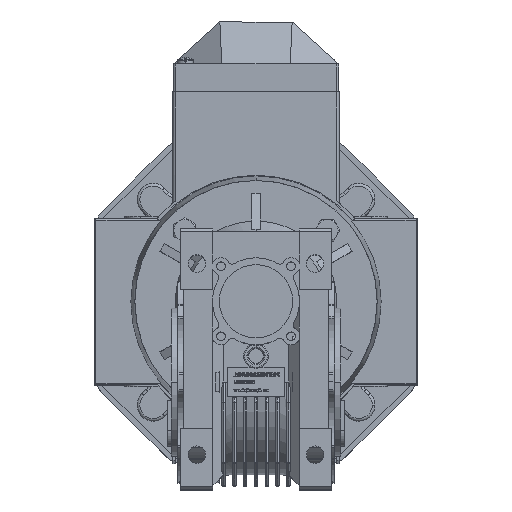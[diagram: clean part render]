
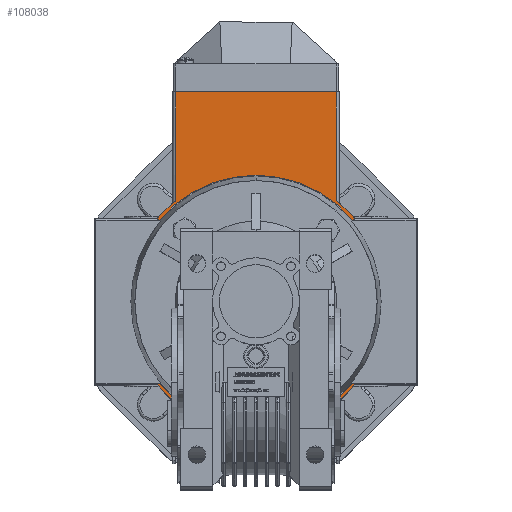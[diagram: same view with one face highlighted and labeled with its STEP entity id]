
A CAD part, top view. The second image highlights one B-rep face of the part: STEP entity #108038.
In plain terms, the highlighted planar face has unit normal (0, 0, 1).
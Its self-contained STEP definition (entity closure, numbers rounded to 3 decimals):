
#2333 = DIRECTION ( 'NONE',  ( 0., 0., 1. ) ) ;
#2702 = DIRECTION ( 'NONE',  ( 1., 0., 0. ) ) ;
#3257 = DIRECTION ( 'NONE',  ( 0., 0., -1. ) ) ;
#4535 = VERTEX_POINT ( 'NONE', #109053 ) ;
#5659 = VERTEX_POINT ( 'NONE', #70245 ) ;
#6194 = LINE ( 'NONE', #16932, #36860 ) ;
#7604 = ORIENTED_EDGE ( 'NONE', *, *, #35212, .T. ) ;
#8166 = CARTESIAN_POINT ( 'NONE',  ( -60., 30.854, 0. ) ) ;
#9170 = CARTESIAN_POINT ( 'NONE',  ( 0., 0., 0. ) ) ;
#10082 = AXIS2_PLACEMENT_3D ( 'NONE', #61271, #10152, #69839 ) ;
#10152 = DIRECTION ( 'NONE',  ( 0., 0., 1. ) ) ;
#10640 = CARTESIAN_POINT ( 'NONE',  ( 36.77, 30.854, 0. ) ) ;
#11616 = EDGE_CURVE ( 'NONE', #4535, #70054, #58516, .T. ) ;
#12937 = LINE ( 'NONE', #47236, #43672 ) ;
#13857 = VERTEX_POINT ( 'NONE', #60341 ) ;
#16077 = ORIENTED_EDGE ( 'NONE', *, *, #82603, .T. ) ;
#16837 = LINE ( 'NONE', #73655, #43457 ) ;
#16932 = CARTESIAN_POINT ( 'NONE',  ( 60., 30.854, 0. ) ) ;
#18094 = AXIS2_PLACEMENT_3D ( 'NONE', #54323, #3257, #44623 ) ;
#22282 = VERTEX_POINT ( 'NONE', #92069 ) ;
#22584 = DIRECTION ( 'NONE',  ( 0., 1., 0. ) ) ;
#24775 = DIRECTION ( 'NONE',  ( 0., 0., -1. ) ) ;
#26319 = CARTESIAN_POINT ( 'NONE',  ( -29.854, 0., 0. ) ) ;
#26644 = CARTESIAN_POINT ( 'NONE',  ( -36.77, 30.854, 0. ) ) ;
#26992 = CARTESIAN_POINT ( 'NONE',  ( 0., 0., 0. ) ) ;
#27313 = PLANE ( 'NONE',  #10082 ) ;
#28811 = AXIS2_PLACEMENT_3D ( 'NONE', #26992, #2333, #2702 ) ;
#32083 = AXIS2_PLACEMENT_3D ( 'NONE', #72517, #82256, #65049 ) ;
#33710 = CARTESIAN_POINT ( 'NONE',  ( 0., 0., 0. ) ) ;
#34879 = DIRECTION ( 'NONE',  ( 1., 0., 0. ) ) ;
#34966 = VECTOR ( 'NONE', #90650, 1000. ) ;
#35212 = EDGE_CURVE ( 'NONE', #5659, #22282, #57649, .T. ) ;
#35217 = FACE_BOUND ( 'NONE', #77425, .T. ) ;
#36860 = VECTOR ( 'NONE', #94635, 1000. ) ;
#37075 = LINE ( 'NONE', #26319, #81138 ) ;
#37856 = CARTESIAN_POINT ( 'NONE',  ( 36.77, 30.854, 0. ) ) ;
#40109 = EDGE_CURVE ( 'NONE', #63522, #85162, #16837, .T. ) ;
#40908 = CARTESIAN_POINT ( 'NONE',  ( 29.854, 0., 0. ) ) ;
#42235 = ORIENTED_EDGE ( 'NONE', *, *, #85116, .T. ) ;
#43457 = VECTOR ( 'NONE', #81896, 1000. ) ;
#43672 = VECTOR ( 'NONE', #88429, 1000. ) ;
#44623 = DIRECTION ( 'NONE',  ( 0., 1., 0. ) ) ;
#44714 = LINE ( 'NONE', #66215, #84870 ) ;
#47080 = ORIENTED_EDGE ( 'NONE', *, *, #106661, .F. ) ;
#47236 = CARTESIAN_POINT ( 'NONE',  ( -30.854, 78., 0. ) ) ;
#47800 = VECTOR ( 'NONE', #103023, 1000. ) ;
#47939 = ORIENTED_EDGE ( 'NONE', *, *, #70434, .T. ) ;
#48734 = EDGE_CURVE ( 'NONE', #70853, #93748, #75972, .T. ) ;
#49049 = CARTESIAN_POINT ( 'NONE',  ( -60., 30.854, 0. ) ) ;
#51585 = CARTESIAN_POINT ( 'NONE',  ( -36.77, -30.854, 0. ) ) ;
#52769 = ORIENTED_EDGE ( 'NONE', *, *, #68602, .T. ) ;
#52792 = ORIENTED_EDGE ( 'NONE', *, *, #53208, .F. ) ;
#53208 = EDGE_CURVE ( 'NONE', #69951, #22282, #12937, .T. ) ;
#53211 = CARTESIAN_POINT ( 'NONE',  ( -60., -30.854, 0. ) ) ;
#54323 = CARTESIAN_POINT ( 'NONE',  ( 0., 0., 0. ) ) ;
#54514 = EDGE_CURVE ( 'NONE', #93748, #77818, #44714, .T. ) ;
#54717 = CIRCLE ( 'NONE', #18094, 5.775 ) ;
#54929 = VERTEX_POINT ( 'NONE', #63491 ) ;
#55291 = CIRCLE ( 'NONE', #32083, 48. ) ;
#57287 = EDGE_CURVE ( 'NONE', #67885, #63522, #61879, .T. ) ;
#57649 = LINE ( 'NONE', #40908, #34966 ) ;
#58516 = LINE ( 'NONE', #10640, #47800 ) ;
#60341 = CARTESIAN_POINT ( 'NONE',  ( 0., -5.775, 0. ) ) ;
#61271 = CARTESIAN_POINT ( 'NONE',  ( 0., 0., 0. ) ) ;
#61879 = LINE ( 'NONE', #49049, #96668 ) ;
#63491 = CARTESIAN_POINT ( 'NONE',  ( -29.854, 37.587, 0. ) ) ;
#63522 = VERTEX_POINT ( 'NONE', #8166 ) ;
#64452 = ORIENTED_EDGE ( 'NONE', *, *, #57287, .F. ) ;
#65049 = DIRECTION ( 'NONE',  ( 1., 0., 0. ) ) ;
#65153 = CARTESIAN_POINT ( 'NONE',  ( -36.77, -30.854, 0. ) ) ;
#66215 = CARTESIAN_POINT ( 'NONE',  ( 36.77, -30.854, 0. ) ) ;
#67885 = VERTEX_POINT ( 'NONE', #53211 ) ;
#68602 = EDGE_CURVE ( 'NONE', #106377, #13857, #54717, .T. ) ;
#68779 = DIRECTION ( 'NONE',  ( 0., 1., 0. ) ) ;
#69229 = DIRECTION ( 'NONE',  ( 0., 0., 1. ) ) ;
#69839 = DIRECTION ( 'NONE',  ( 1., 0., 0. ) ) ;
#69951 = VERTEX_POINT ( 'NONE', #71099 ) ;
#70054 = VERTEX_POINT ( 'NONE', #37856 ) ;
#70245 = CARTESIAN_POINT ( 'NONE',  ( 29.854, 37.587, 0. ) ) ;
#70434 = EDGE_CURVE ( 'NONE', #69951, #54929, #37075, .T. ) ;
#70853 = VERTEX_POINT ( 'NONE', #65153 ) ;
#71099 = CARTESIAN_POINT ( 'NONE',  ( -29.854, 78., 0. ) ) ;
#72517 = CARTESIAN_POINT ( 'NONE',  ( 0., 0., 0. ) ) ;
#73655 = CARTESIAN_POINT ( 'NONE',  ( -36.77, 30.854, 0. ) ) ;
#74068 = DIRECTION ( 'NONE',  ( 1., 0., 0. ) ) ;
#75218 = CARTESIAN_POINT ( 'NONE',  ( 0., 5.775, 0. ) ) ;
#75818 = ORIENTED_EDGE ( 'NONE', *, *, #89306, .T. ) ;
#75972 = CIRCLE ( 'NONE', #80343, 48. ) ;
#76298 = ORIENTED_EDGE ( 'NONE', *, *, #11616, .T. ) ;
#77425 = EDGE_LOOP ( 'NONE', ( #52769, #42235 ) ) ;
#77523 = CIRCLE ( 'NONE', #101421, 5.775 ) ;
#77818 = VERTEX_POINT ( 'NONE', #91305 ) ;
#80135 = EDGE_LOOP ( 'NONE', ( #52792, #47939, #75818, #89763, #64452, #47080, #98867, #109647, #109986, #76298, #16077, #7604 ) ) ;
#80343 = AXIS2_PLACEMENT_3D ( 'NONE', #9170, #69229, #34879 ) ;
#81138 = VECTOR ( 'NONE', #86005, 1000. ) ;
#81896 = DIRECTION ( 'NONE',  ( 1., 0., 0. ) ) ;
#82251 = VECTOR ( 'NONE', #85921, 1000. ) ;
#82256 = DIRECTION ( 'NONE',  ( 0., 0., 1. ) ) ;
#82603 = EDGE_CURVE ( 'NONE', #70054, #5659, #110038, .T. ) ;
#84870 = VECTOR ( 'NONE', #74068, 1000. ) ;
#85116 = EDGE_CURVE ( 'NONE', #13857, #106377, #77523, .T. ) ;
#85162 = VERTEX_POINT ( 'NONE', #26644 ) ;
#85921 = DIRECTION ( 'NONE',  ( -1., 0., 0. ) ) ;
#86005 = DIRECTION ( 'NONE',  ( 0., -1., 0. ) ) ;
#86009 = FACE_OUTER_BOUND ( 'NONE', #80135, .T. ) ;
#88429 = DIRECTION ( 'NONE',  ( 1., 0., 0. ) ) ;
#88863 = LINE ( 'NONE', #51585, #82251 ) ;
#89306 = EDGE_CURVE ( 'NONE', #54929, #85162, #55291, .T. ) ;
#89763 = ORIENTED_EDGE ( 'NONE', *, *, #40109, .F. ) ;
#90359 = EDGE_CURVE ( 'NONE', #77818, #4535, #6194, .T. ) ;
#90650 = DIRECTION ( 'NONE',  ( 0., 1., 0. ) ) ;
#91305 = CARTESIAN_POINT ( 'NONE',  ( 60., -30.854, 0. ) ) ;
#92069 = CARTESIAN_POINT ( 'NONE',  ( 29.854, 78., 0. ) ) ;
#93748 = VERTEX_POINT ( 'NONE', #103420 ) ;
#94635 = DIRECTION ( 'NONE',  ( 0., 1., 0. ) ) ;
#96668 = VECTOR ( 'NONE', #22584, 1000. ) ;
#98867 = ORIENTED_EDGE ( 'NONE', *, *, #48734, .T. ) ;
#101421 = AXIS2_PLACEMENT_3D ( 'NONE', #33710, #24775, #68779 ) ;
#103023 = DIRECTION ( 'NONE',  ( -1., 0., 0. ) ) ;
#103420 = CARTESIAN_POINT ( 'NONE',  ( 36.77, -30.854, 0. ) ) ;
#106377 = VERTEX_POINT ( 'NONE', #75218 ) ;
#106661 = EDGE_CURVE ( 'NONE', #70853, #67885, #88863, .T. ) ;
#108038 = ADVANCED_FACE ( 'NONE', ( #86009, #35217 ), #27313, .T. ) ;
#109053 = CARTESIAN_POINT ( 'NONE',  ( 60., 30.854, 0. ) ) ;
#109647 = ORIENTED_EDGE ( 'NONE', *, *, #54514, .T. ) ;
#109986 = ORIENTED_EDGE ( 'NONE', *, *, #90359, .T. ) ;
#110038 = CIRCLE ( 'NONE', #28811, 48. ) ;
